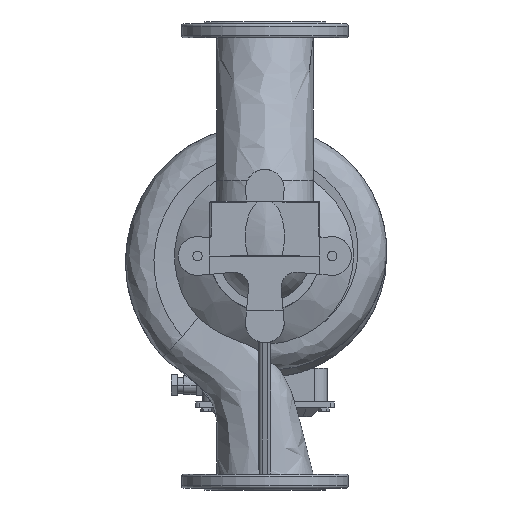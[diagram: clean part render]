
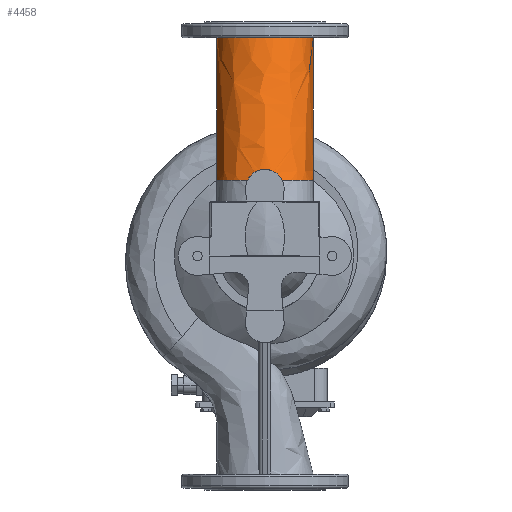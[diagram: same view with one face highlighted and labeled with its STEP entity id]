
A CAD part, front view. The second image highlights one B-rep face of the part: STEP entity #4458.
In plain terms, the highlighted free-form (B-spline) face has degree [3, 1] with [7, 2] control points.
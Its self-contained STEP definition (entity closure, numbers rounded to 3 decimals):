
#154=(
BOUNDED_SURFACE()
B_SPLINE_SURFACE(3,1,((#36904,#36905),(#36906,#36907),(#36908,#36909),(#36910,
#36911),(#36912,#36913),(#36914,#36915),(#36916,#36917)),.UNSPECIFIED.,
 .T.,.F.,.F.)
B_SPLINE_SURFACE_WITH_KNOTS((1,3,3,3,1),(2,2),(-0.5,0.,0.5,1.,1.5),(0.,
1.),.UNSPECIFIED.)
GEOMETRIC_REPRESENTATION_ITEM()
RATIONAL_B_SPLINE_SURFACE(((1.,1.),(0.333,0.333),
(0.333,0.333),(1.,1.),(0.333,0.333),
(0.333,0.333),(1.,1.)))
REPRESENTATION_ITEM('')
SURFACE()
);
#1697=LINE('',#36875,#3092);
#1698=LINE('',#36886,#3093);
#3092=VECTOR('',#29176,1.);
#3093=VECTOR('',#29179,1.);
#4458=ADVANCED_FACE('',(#6405),#154,.F.);
#6405=FACE_OUTER_BOUND('',#7836,.T.);
#7836=EDGE_LOOP('',(#11207,#11208,#11209,#11210,#11211,#11212,#11213,#11214));
#9664=CIRCLE('',#26006,82.5);
#9665=CIRCLE('',#26007,82.5);
#9666=CIRCLE('',#26008,82.5);
#11207=ORIENTED_EDGE('',*,*,#21264,.T.);
#11208=ORIENTED_EDGE('',*,*,#21265,.T.);
#11209=ORIENTED_EDGE('',*,*,#21266,.T.);
#11210=ORIENTED_EDGE('',*,*,#21267,.F.);
#11211=ORIENTED_EDGE('',*,*,#21268,.F.);
#11212=ORIENTED_EDGE('',*,*,#21269,.F.);
#11213=ORIENTED_EDGE('',*,*,#21270,.T.);
#11214=ORIENTED_EDGE('',*,*,#21271,.F.);
#18804=VERTEX_POINT('',#36876);
#18805=VERTEX_POINT('',#36877);
#18806=VERTEX_POINT('',#36880);
#18807=VERTEX_POINT('',#36882);
#18808=VERTEX_POINT('',#36885);
#18809=VERTEX_POINT('',#36887);
#18810=VERTEX_POINT('',#36889);
#18811=VERTEX_POINT('',#36902);
#21264=EDGE_CURVE('',#18804,#18805,#1697,.T.);
#21265=EDGE_CURVE('',#18805,#18806,#24892,.T.);
#21266=EDGE_CURVE('',#18806,#18807,#9664,.T.);
#21267=EDGE_CURVE('',#18808,#18807,#24893,.T.);
#21268=EDGE_CURVE('',#18809,#18808,#1698,.T.);
#21269=EDGE_CURVE('',#18810,#18809,#9665,.T.);
#21270=EDGE_CURVE('',#18810,#18811,#24894,.T.);
#21271=EDGE_CURVE('',#18804,#18811,#9666,.T.);
#24892=B_SPLINE_CURVE_WITH_KNOTS('',1,(#36878,#36879),.UNSPECIFIED.,.F.,
 .F.,(2,2),(0.,1.),.UNSPECIFIED.);
#24893=B_SPLINE_CURVE_WITH_KNOTS('',1,(#36883,#36884),.UNSPECIFIED.,.F.,
 .F.,(2,2),(0.,1.),.UNSPECIFIED.);
#24894=B_SPLINE_CURVE_WITH_KNOTS('',3,(#36890,#36891,#36892,#36893,#36894,
#36895,#36896,#36897,#36898,#36899,#36900,#36901),.UNSPECIFIED.,.F.,.F.,
(4,2,2,2,2,4),(0.,0.125,0.25,0.5,0.75,1.),.UNSPECIFIED.);
#26006=AXIS2_PLACEMENT_3D('',#36881,#29177,#29178);
#26007=AXIS2_PLACEMENT_3D('',#36888,#29180,#29181);
#26008=AXIS2_PLACEMENT_3D('',#36903,#29182,#29183);
#29176=DIRECTION('',(0.,0.423,0.906));
#29177=DIRECTION('',(0.,0.,-1.));
#29178=DIRECTION('',(-1.,0.,0.));
#29179=DIRECTION('',(0.,0.423,0.906));
#29180=DIRECTION('',(0.,0.,-1.));
#29181=DIRECTION('',(-1.,0.,0.));
#29182=DIRECTION('',(0.,0.,-1.));
#29183=DIRECTION('',(-1.,0.,0.));
#36875=CARTESIAN_POINT('',(82.5,-56.831,251.126));
#36876=CARTESIAN_POINT('',(82.5,-113.661,129.252));
#36877=CARTESIAN_POINT('',(82.5,-106.318,145.));
#36878=CARTESIAN_POINT('',(82.5,-106.318,145.));
#36879=CARTESIAN_POINT('',(82.5,0.,373.));
#36880=CARTESIAN_POINT('',(82.5,0.,373.));
#36881=CARTESIAN_POINT('',(0.,0.,373.));
#36882=CARTESIAN_POINT('',(-82.5,0.,373.));
#36883=CARTESIAN_POINT('',(-82.5,-106.318,145.));
#36884=CARTESIAN_POINT('',(-82.5,0.,373.));
#36885=CARTESIAN_POINT('',(-82.5,-106.318,145.));
#36886=CARTESIAN_POINT('',(-82.5,-56.831,251.126));
#36887=CARTESIAN_POINT('',(-82.5,-113.661,129.252));
#36888=CARTESIAN_POINT('',(0.,-113.661,129.252));
#36889=CARTESIAN_POINT('',(-29.764,-190.605,129.252));
#36890=CARTESIAN_POINT('',(-29.764,-190.605,129.252));
#36891=CARTESIAN_POINT('',(-28.449,-189.834,131.998));
#36892=CARTESIAN_POINT('',(-26.774,-189.261,134.538));
#36893=CARTESIAN_POINT('',(-22.684,-188.388,139.166));
#36894=CARTESIAN_POINT('',(-20.306,-188.098,141.197));
#36895=CARTESIAN_POINT('',(-12.459,-187.498,146.18));
#36896=CARTESIAN_POINT('',(-6.197,-187.419,147.999));
#36897=CARTESIAN_POINT('',(6.186,-187.419,148.001));
#36898=CARTESIAN_POINT('',(12.41,-187.495,146.205));
#36899=CARTESIAN_POINT('',(22.931,-188.298,139.535));
#36900=CARTESIAN_POINT('',(27.134,-189.062,134.743));
#36901=CARTESIAN_POINT('',(29.764,-190.605,129.252));
#36902=CARTESIAN_POINT('',(29.764,-190.605,129.252));
#36903=CARTESIAN_POINT('',(0.,-113.661,129.252));
#36904=CARTESIAN_POINT('',(-82.5,-113.661,129.252));
#36905=CARTESIAN_POINT('',(-82.5,0.,373.));
#36906=CARTESIAN_POINT('',(-82.5,51.339,129.252));
#36907=CARTESIAN_POINT('',(-82.5,165.,373.));
#36908=CARTESIAN_POINT('',(82.5,51.339,129.252));
#36909=CARTESIAN_POINT('',(82.5,165.,373.));
#36910=CARTESIAN_POINT('',(82.5,-113.661,129.252));
#36911=CARTESIAN_POINT('',(82.5,0.,373.));
#36912=CARTESIAN_POINT('',(82.5,-278.661,129.252));
#36913=CARTESIAN_POINT('',(82.5,-165.,373.));
#36914=CARTESIAN_POINT('',(-82.5,-278.661,129.252));
#36915=CARTESIAN_POINT('',(-82.5,-165.,373.));
#36916=CARTESIAN_POINT('',(-82.5,-113.661,129.252));
#36917=CARTESIAN_POINT('',(-82.5,0.,373.));
